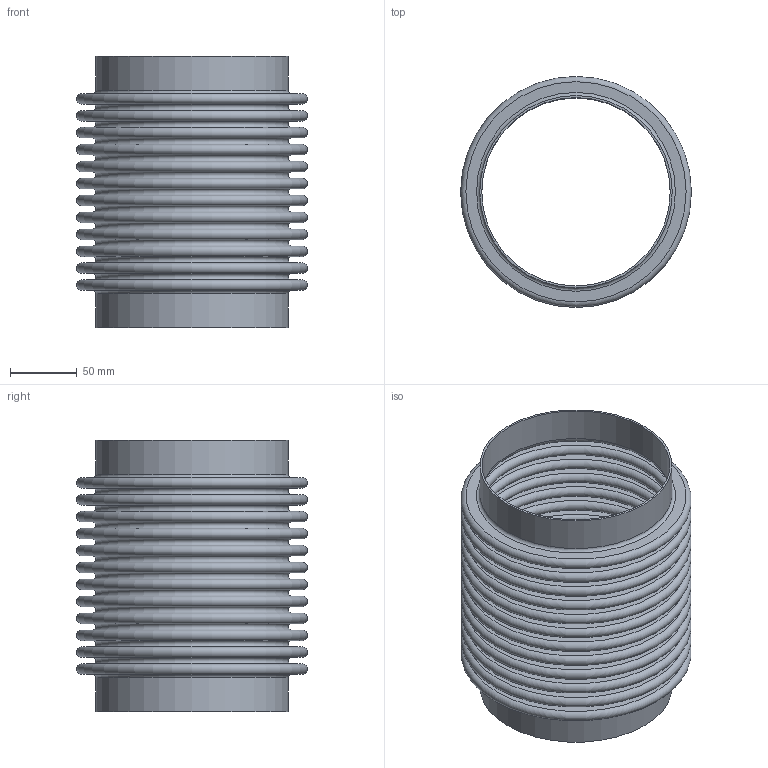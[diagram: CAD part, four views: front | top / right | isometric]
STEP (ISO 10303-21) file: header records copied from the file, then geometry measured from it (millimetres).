
FILE_DESCRIPTION(/* description */ ('STOCK BELLOWS: U.S-5-12-300L, 5.560 I.D., 6.810 O.D., 2 PLY, 22 GA (0.030 THICK), 12 CONS., 0.500 PITCH, 1.000 TANGENT. '),/* implementation_level */ '2;1');
FILE_NAME(/* name */ 'STOCK BELLOW - US-5-12-300L.stp',/* time_stamp */ '2026-07-21T13:26:43-05:00',/* author */ ('KennethB'),/* organization */ (''),/* preprocessor_version */ 'ST-DEVELOPER v20.1',/* originating_system */ 'Autodesk Inventor 2026',/* authorisation */ '');
FILE_SCHEMA (('AUTOMOTIVE_DESIGN { 1 0 10303 214 3 1 1 }'));
Length unit declared in the file: inch
Products named in the file (1): STOCK BELLOW - US-5-12-300L
Bounding box: 172.97 x 172.97 x 203.2 mm (x, y, z)
Volume: 359209.5 mm3; surface area: 475504.2 mm2
Topology: 3 solids, 3 shells, 108 faces, 162 edges, 109 vertices
Faces by surface type: plane 54, torus 50, cylinder 4
Full cylindrical faces by diameter (mm): 141.224 x2, 144.272 x2
Entity records: 2550 total; most frequent: DIRECTION 538, CARTESIAN_POINT 380, ORIENTED_EDGE 324, AXIS2_PLACEMENT_3D 267, EDGE_LOOP 162, EDGE_CURVE 162, CIRCLE 158, FACE_OUTER_BOUND 108
